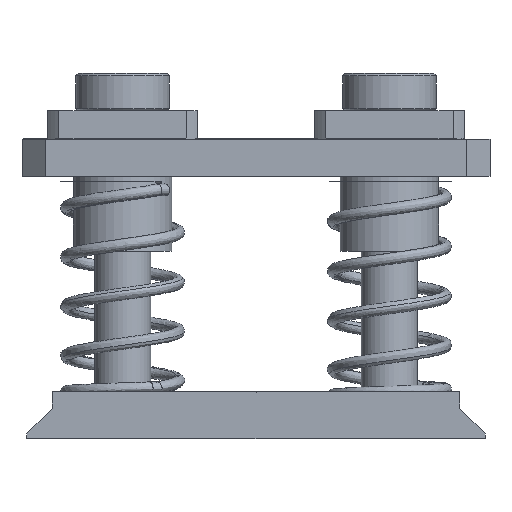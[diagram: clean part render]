
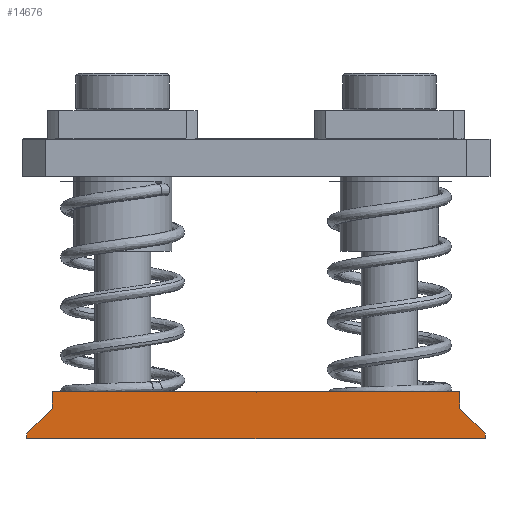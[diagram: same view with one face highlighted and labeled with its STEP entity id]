
A CAD part, front view. The second image highlights one B-rep face of the part: STEP entity #14676.
In plain terms, the highlighted planar face has unit normal (0, -1, 0).
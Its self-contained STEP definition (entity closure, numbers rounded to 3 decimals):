
#228 = DIRECTION ( 'NONE',  ( 0., 0., 1. ) ) ;
#255 = ORIENTED_EDGE ( 'NONE', *, *, #16434, .F. ) ;
#274 = CARTESIAN_POINT ( 'NONE',  ( -28.445, -35.23, 183.979 ) ) ;
#559 = VERTEX_POINT ( 'NONE', #274 ) ;
#777 = EDGE_LOOP ( 'NONE', ( #1067, #13379, #20929, #5607, #255, #3824, #10901, #5573, #7469, #3226, #1312 ) ) ;
#1067 = ORIENTED_EDGE ( 'NONE', *, *, #14254, .T. ) ;
#1136 = DIRECTION ( 'NONE',  ( -1., 0., 0. ) ) ;
#1312 = ORIENTED_EDGE ( 'NONE', *, *, #19957, .T. ) ;
#1671 = DIRECTION ( 'NONE',  ( 0., 0., 1. ) ) ;
#1974 = VERTEX_POINT ( 'NONE', #14896 ) ;
#2813 = EDGE_CURVE ( 'NONE', #5756, #1974, #16575, .T. ) ;
#3211 = CARTESIAN_POINT ( 'NONE',  ( 20.705, -35.23, 183.979 ) ) ;
#3226 = ORIENTED_EDGE ( 'NONE', *, *, #21679, .F. ) ;
#3377 = CARTESIAN_POINT ( 'NONE',  ( 20.705, -35.23, 174.979 ) ) ;
#3615 = VECTOR ( 'NONE', #11379, 1000. ) ;
#3655 = DIRECTION ( 'NONE',  ( -1., 0., 0. ) ) ;
#3824 = ORIENTED_EDGE ( 'NONE', *, *, #16013, .T. ) ;
#4167 = VERTEX_POINT ( 'NONE', #19814 ) ;
#4303 = CARTESIAN_POINT ( 'NONE',  ( -77.295, -35.23, 174.979 ) ) ;
#4544 = CARTESIAN_POINT ( 'NONE',  ( -28.145, -35.23, 183.979 ) ) ;
#5573 = ORIENTED_EDGE ( 'NONE', *, *, #20568, .T. ) ;
#5607 = ORIENTED_EDGE ( 'NONE', *, *, #6707, .F. ) ;
#5756 = VERTEX_POINT ( 'NONE', #15816 ) ;
#5940 = VERTEX_POINT ( 'NONE', #4303 ) ;
#6025 = CARTESIAN_POINT ( 'NONE',  ( -28.295, -35.23, 183.829 ) ) ;
#6334 = VECTOR ( 'NONE', #21852, 1000. ) ;
#6349 = VERTEX_POINT ( 'NONE', #4544 ) ;
#6677 = PLANE ( 'NONE',  #10520 ) ;
#6693 = CARTESIAN_POINT ( 'NONE',  ( -28.22, -35.23, 183.904 ) ) ;
#6707 = EDGE_CURVE ( 'NONE', #15945, #6349, #20977, .T. ) ;
#7049 = VECTOR ( 'NONE', #3655, 1000. ) ;
#7051 = DIRECTION ( 'NONE',  ( 0., 0., -1. ) ) ;
#7149 = LINE ( 'NONE', #9508, #15112 ) ;
#7420 = VECTOR ( 'NONE', #10092, 1000. ) ;
#7469 = ORIENTED_EDGE ( 'NONE', *, *, #16812, .F. ) ;
#7582 = LINE ( 'NONE', #18923, #7049 ) ;
#7808 = CARTESIAN_POINT ( 'NONE',  ( 20.705, -35.23, 174.979 ) ) ;
#8080 = VECTOR ( 'NONE', #1671, 1000. ) ;
#9299 = FACE_OUTER_BOUND ( 'NONE', #777, .T. ) ;
#9508 = CARTESIAN_POINT ( 'NONE',  ( -28.295, -35.23, 183.979 ) ) ;
#9717 = VECTOR ( 'NONE', #1136, 1000. ) ;
#10040 = CARTESIAN_POINT ( 'NONE',  ( -77.295, -35.23, 174.979 ) ) ;
#10092 = DIRECTION ( 'NONE',  ( 0.707, 0., 0.707 ) ) ;
#10520 = AXIS2_PLACEMENT_3D ( 'NONE', #3211, #21985, #11792 ) ;
#10859 = VERTEX_POINT ( 'NONE', #21335 ) ;
#10901 = ORIENTED_EDGE ( 'NONE', *, *, #21613, .T. ) ;
#11233 = DIRECTION ( 'NONE',  ( -1., 0., 0. ) ) ;
#11295 = VERTEX_POINT ( 'NONE', #3377 ) ;
#11337 = CARTESIAN_POINT ( 'NONE',  ( -28.295, -35.23, 183.979 ) ) ;
#11379 = DIRECTION ( 'NONE',  ( -0.707, 0., -0.707 ) ) ;
#11792 = DIRECTION ( 'NONE',  ( -1., 0., 0. ) ) ;
#12091 = VECTOR ( 'NONE', #7051, 1000. ) ;
#12101 = LINE ( 'NONE', #21555, #3615 ) ;
#12133 = CARTESIAN_POINT ( 'NONE',  ( 20.705, -35.23, 178.979 ) ) ;
#12156 = VERTEX_POINT ( 'NONE', #15069 ) ;
#12491 = LINE ( 'NONE', #7808, #18070 ) ;
#13379 = ORIENTED_EDGE ( 'NONE', *, *, #2813, .T. ) ;
#14254 = EDGE_CURVE ( 'NONE', #11295, #5756, #12491, .T. ) ;
#14676 = ADVANCED_FACE ( 'NONE', ( #9299 ), #6677, .T. ) ;
#14896 = CARTESIAN_POINT ( 'NONE',  ( 15.205, -35.23, 183.979 ) ) ;
#15069 = CARTESIAN_POINT ( 'NONE',  ( -71.795, -35.23, 180.479 ) ) ;
#15112 = VECTOR ( 'NONE', #11233, 1000. ) ;
#15371 = LINE ( 'NONE', #20208, #6334 ) ;
#15816 = CARTESIAN_POINT ( 'NONE',  ( 15.205, -35.23, 180.479 ) ) ;
#15945 = VERTEX_POINT ( 'NONE', #6025 ) ;
#16013 = EDGE_CURVE ( 'NONE', #559, #10859, #7149, .T. ) ;
#16074 = LINE ( 'NONE', #17214, #12091 ) ;
#16228 = B_SPLINE_CURVE_WITH_KNOTS ( 'NONE', 1,
 ( #21953, #10040 ),
 .UNSPECIFIED., .F., .F.,
 ( 2, 2 ),
 ( 0., 1. ),
 .UNSPECIFIED. ) ;
#16434 = EDGE_CURVE ( 'NONE', #559, #15945, #15371, .T. ) ;
#16575 = LINE ( 'NONE', #16911, #8080 ) ;
#16706 = VERTEX_POINT ( 'NONE', #19722 ) ;
#16812 = EDGE_CURVE ( 'NONE', #16706, #5940, #16228, .T. ) ;
#16888 = VECTOR ( 'NONE', #228, 1000. ) ;
#16911 = CARTESIAN_POINT ( 'NONE',  ( 15.205, -35.23, 178.979 ) ) ;
#17214 = CARTESIAN_POINT ( 'NONE',  ( -71.795, -35.23, 178.979 ) ) ;
#17419 = LINE ( 'NONE', #12133, #16888 ) ;
#18070 = VECTOR ( 'NONE', #19680, 1000. ) ;
#18226 = LINE ( 'NONE', #11337, #9717 ) ;
#18923 = CARTESIAN_POINT ( 'NONE',  ( -28.295, -35.23, 173.979 ) ) ;
#19264 = EDGE_CURVE ( 'NONE', #1974, #6349, #18226, .T. ) ;
#19680 = DIRECTION ( 'NONE',  ( -0.707, 0., 0.707 ) ) ;
#19722 = CARTESIAN_POINT ( 'NONE',  ( -77.295, -35.23, 173.979 ) ) ;
#19814 = CARTESIAN_POINT ( 'NONE',  ( 20.705, -35.23, 173.979 ) ) ;
#19957 = EDGE_CURVE ( 'NONE', #4167, #11295, #17419, .T. ) ;
#20208 = CARTESIAN_POINT ( 'NONE',  ( -28.37, -35.23, 183.904 ) ) ;
#20568 = EDGE_CURVE ( 'NONE', #12156, #5940, #12101, .T. ) ;
#20929 = ORIENTED_EDGE ( 'NONE', *, *, #19264, .T. ) ;
#20977 = LINE ( 'NONE', #6693, #7420 ) ;
#21335 = CARTESIAN_POINT ( 'NONE',  ( -71.795, -35.23, 183.979 ) ) ;
#21555 = CARTESIAN_POINT ( 'NONE',  ( -71.795, -35.23, 180.479 ) ) ;
#21613 = EDGE_CURVE ( 'NONE', #10859, #12156, #16074, .T. ) ;
#21679 = EDGE_CURVE ( 'NONE', #4167, #16706, #7582, .T. ) ;
#21852 = DIRECTION ( 'NONE',  ( 0.707, 0., -0.707 ) ) ;
#21953 = CARTESIAN_POINT ( 'NONE',  ( -77.295, -35.23, 173.979 ) ) ;
#21985 = DIRECTION ( 'NONE',  ( 0., -1., 0. ) ) ;
